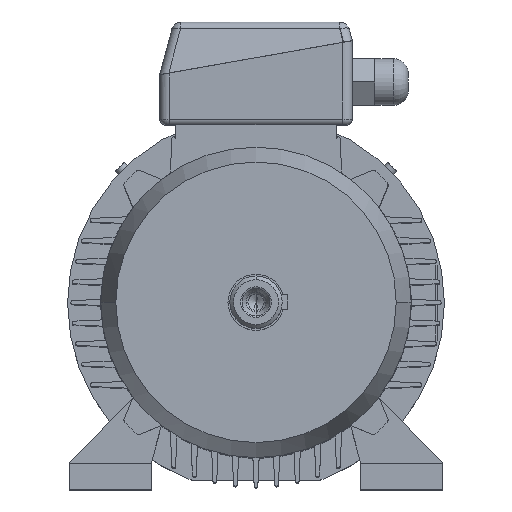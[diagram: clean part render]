
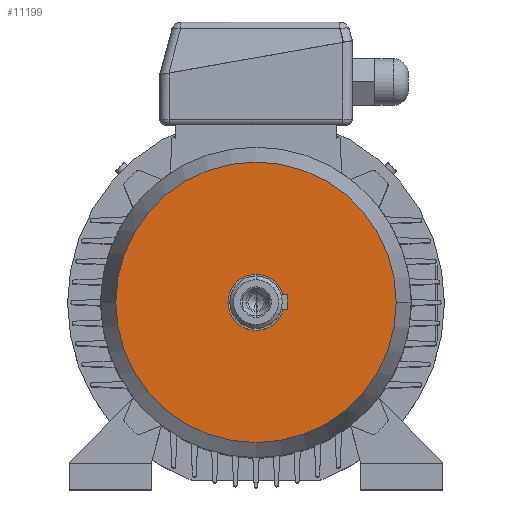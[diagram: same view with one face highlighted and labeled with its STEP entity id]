
A CAD part, top view. The second image highlights one B-rep face of the part: STEP entity #11199.
In plain terms, the highlighted planar face has unit normal (0, 0, 1).
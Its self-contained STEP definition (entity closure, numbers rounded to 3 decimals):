
#2396 = CARTESIAN_POINT ( 'NONE',  ( -75., 0., 35.5 ) ) ;
#3981 = VERTEX_POINT ( 'NONE', #10450 ) ;
#5971 = ORIENTED_EDGE ( 'NONE', *, *, #6084, .F. ) ;
#6084 = EDGE_CURVE ( 'NONE', #3981, #7205, #12170, .T. ) ;
#6204 = EDGE_CURVE ( 'NONE', #7205, #3981, #12387, .T. ) ;
#7205 = VERTEX_POINT ( 'NONE', #2396 ) ;
#7355 = ORIENTED_EDGE ( 'NONE', *, *, #6204, .F. ) ;
#10450 = CARTESIAN_POINT ( 'NONE',  ( 75., 0., 35.5 ) ) ;
#11022 = EDGE_LOOP ( 'NONE', ( #7355, #5971 ) ) ;
#11199 = ADVANCED_FACE ( 'NONE', ( #12709 ), #12710, .T. ) ;
#12170 = CIRCLE ( 'NONE', #12171, 75. ) ;
#12171 = AXIS2_PLACEMENT_3D ( 'NONE', #12172, #12173, #12174 ) ;
#12172 = CARTESIAN_POINT ( 'NONE',  ( 0., 0., 35.5 ) ) ;
#12173 = DIRECTION ( 'NONE',  ( 0., 0., -1. ) ) ;
#12174 = DIRECTION ( 'NONE',  ( -1., 0., 0. ) ) ;
#12387 = CIRCLE ( 'NONE', #12388, 75. ) ;
#12388 = AXIS2_PLACEMENT_3D ( 'NONE', #12389, #12396, #12397 ) ;
#12389 = CARTESIAN_POINT ( 'NONE',  ( 0., 0., 35.5 ) ) ;
#12396 = DIRECTION ( 'NONE',  ( 0., 0., -1. ) ) ;
#12397 = DIRECTION ( 'NONE',  ( -1., 0., 0. ) ) ;
#12709 = FACE_OUTER_BOUND ( 'NONE', #11022, .T. ) ;
#12710 = PLANE ( 'NONE',  #12711 ) ;
#12711 = AXIS2_PLACEMENT_3D ( 'NONE', #12712, #12713, #12714 ) ;
#12712 = CARTESIAN_POINT ( 'NONE',  ( 0., 75., 35.5 ) ) ;
#12713 = DIRECTION ( 'NONE',  ( 0., 0., 1. ) ) ;
#12714 = DIRECTION ( 'NONE',  ( 1., 0., 0. ) ) ;
